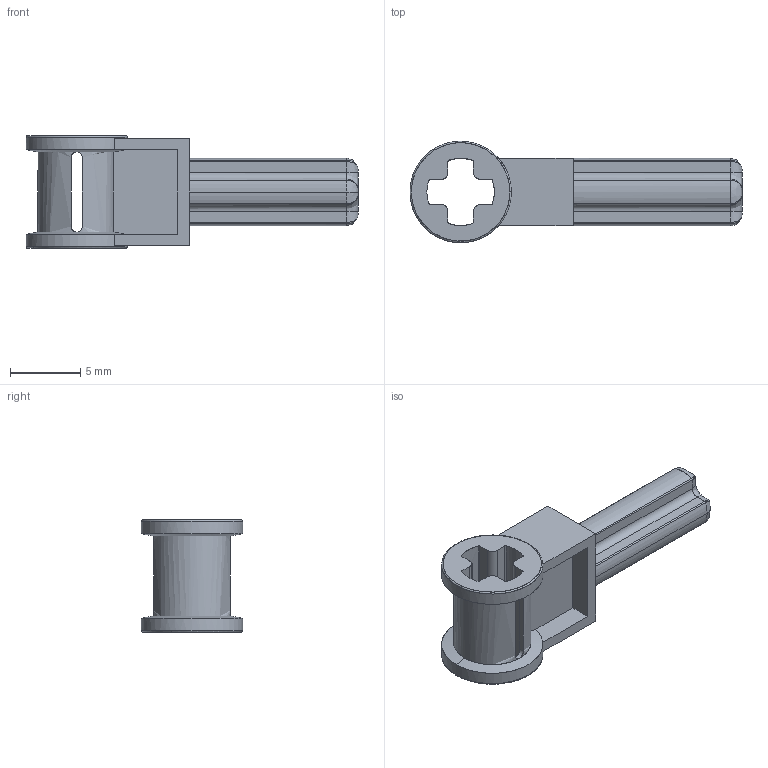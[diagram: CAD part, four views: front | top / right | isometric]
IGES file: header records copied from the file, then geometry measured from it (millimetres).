
Start section: C
Global section: file name: ClGray_4211536_AVV.iges; native system: By Siemens PLM Incorporated; preprocessor: XPlus GENERIC/IGES 26.1.183; author: Author; organization: Title; date: 20250721.235037; units: millimetre
Bounding box: 23.6 x 7.2 x 8 mm (x, y, z)
Surface area: 737.8 mm2 (no closed solid volume)
Topology: 0 solids, 0 shells, 112 faces, 590 edges, 582 vertices
Faces by surface type: bspline 112
